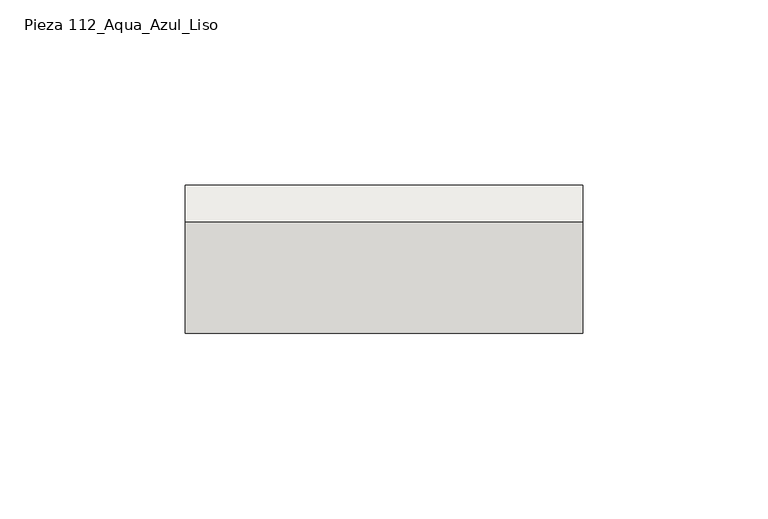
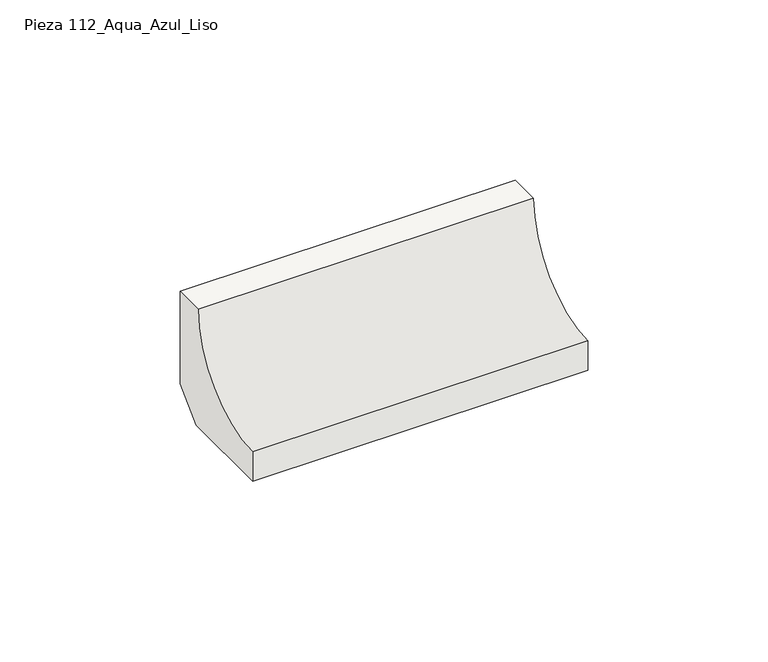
"""IFC4 building model written with IfcOpenShell, lengths in millimetres: slab geometry, ROSA GRES_112 : Pieza 112_Aqua_Azul_Liso."""

from ifc_helpers import new_model, si_unit, point, frame, frame_2d, origin, place, context, project, spatial, polyline, circle_curve, trimmed, segment, composite_curve, outline, extrude, source, transform, mapped, element, save


def pieza_112_aqua_azul_liso_4123cb8f(model_context):
    return source(origin(), model_context, "Body", "SweptSolid", [
        extrude(outline(composite_curve([segment(polyline([(0.0, 8.7114978), (-8.7114978, 0.0), (-40.0, 0.0), (-40.0, 9.9734114)]), True, "CONTINUOUS"), segment(trimmed(circle_curve(frame_2d((-39.9955547, 39.9955547)), 30.0221435), [point((-40.0, 9.9734114))], [point((-9.9734114, 40.0))], True, "CARTESIAN"), True, "CONTINUOUS"), segment(polyline([(-9.9734114, 40.0), (0.0, 40.0), (0.0, 8.7114978)]), True, "CONTINUOUS")], self_intersect=False)), frame((0.0, 0.0, 0.0), z_axis=(1.0, 0.0, 0.0), x_axis=(0.0, 1.0, 0.0)), (0.0, 0.0, 1.0), 107.2816772),
    ])


if __name__ == "__main__":
    model = new_model("IFC4")
    model_context = context("Model", 3, world=origin())
    ifc_project = project(units=[si_unit("LENGTHUNIT", "METRE", prefix="MILLI")], contexts=[model_context])
    site = spatial("IfcSite", under=ifc_project)
    building = spatial("IfcBuilding", under=site)
    placement = place(None, origin())
    pieza_112_aqua_azul_liso_shape = pieza_112_aqua_azul_liso_4123cb8f(model_context)
    element("IfcSlab", 1, ObjectType="ROSA GRES_112 : Pieza 112_Aqua_Azul_Liso", at=placement, inside=building, context=model_context, shape_type="MappedRepresentation", body=[
        mapped(pieza_112_aqua_azul_liso_shape, transform((0.0, 0.0, 0.0), x_axis=(1.0, 0.0, 0.0), y_axis=(0.0, 1.0, 0.0), z_axis=(0.0, 0.0, 1.0))),
    ])
    save(model, "model.ifc")
